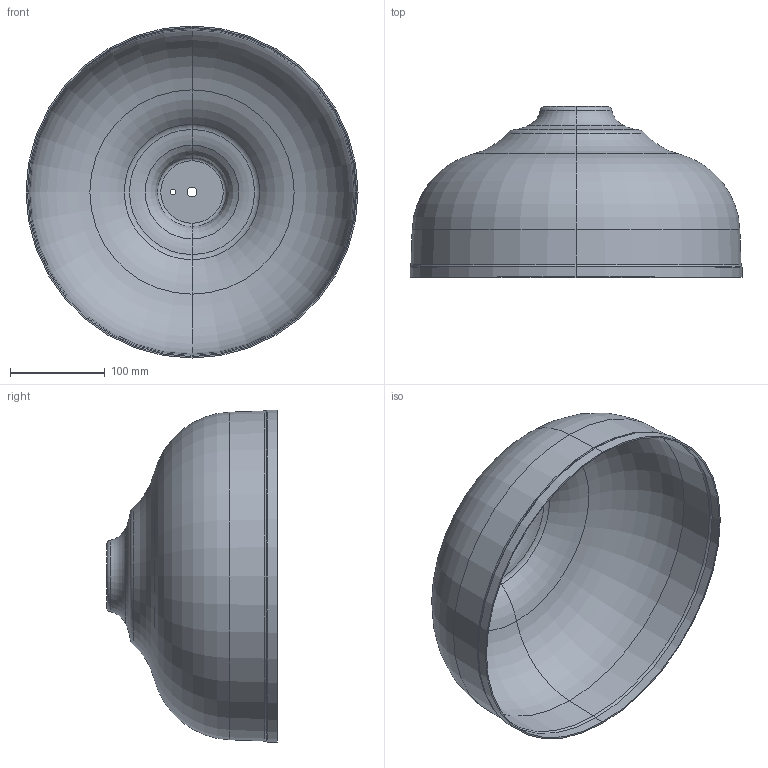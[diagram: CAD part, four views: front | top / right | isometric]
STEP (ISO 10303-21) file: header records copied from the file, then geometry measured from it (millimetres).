
FILE_DESCRIPTION (( 'STEP AP203' ), '1' );
FILE_NAME ('S1454.000.05 Ïëàôîí 350x180 ìì ÷.àëþì 1,5 ìì ðîòàö. âûòÿæêà ÁÓÒÎÍ Õ5.STEP', '2024-10-07T04:43:19', ( '' ), ( '' ), 'SwSTEP 2.0', 'SolidWorks 2022', '' );
FILE_SCHEMA (( 'CONFIG_CONTROL_DESIGN' ));
Length unit declared in the file: millimetre
Products named in the file (1): S1454.000.05 Плафон 350x180 мм ч.алюм 1,5 мм ротац. вытяжка БУТОН Х5
Bounding box: 350 x 180 x 350 mm (x, y, z)
Volume: 300281.2 mm3; surface area: 402090.5 mm2
Topology: 1 solids, 1 shells, 45 faces, 92 edges, 50 vertices
Faces by surface type: torus 30, cylinder 8, cone 4, plane 3
Entity records: 1279 total; most frequent: DIRECTION 264, CARTESIAN_POINT 188, ORIENTED_EDGE 184, AXIS2_PLACEMENT_3D 126, EDGE_CURVE 92, CIRCLE 80, VERTEX_POINT 50, EDGE_LOOP 50
